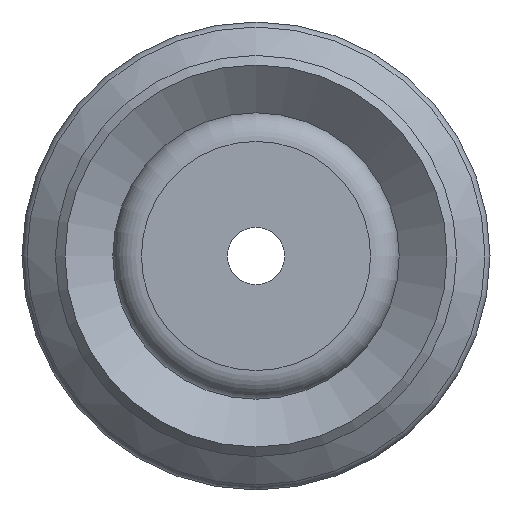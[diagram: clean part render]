
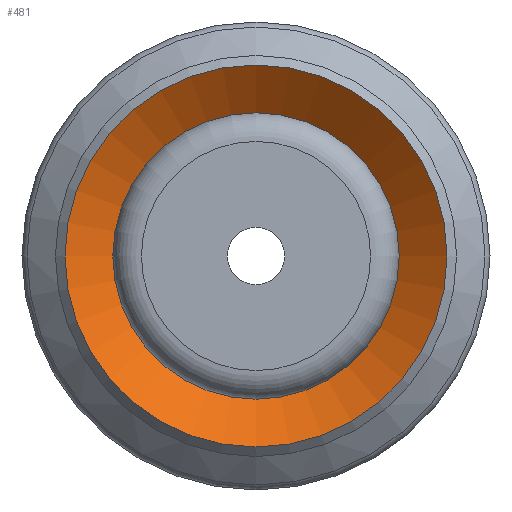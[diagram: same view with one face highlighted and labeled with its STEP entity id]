
A CAD part, front view. The second image highlights one B-rep face of the part: STEP entity #481.
In plain terms, the highlighted conical face has half-angle 52 degrees and reference radius 3 mm.
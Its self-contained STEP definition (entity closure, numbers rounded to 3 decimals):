
#481=ADVANCED_FACE('',(#693,#694),#695,.F.);
#693=FACE_BOUND('',#918,.T.);
#694=FACE_OUTER_BOUND('',#919,.T.);
#695=CONICAL_SURFACE('',#920,3.0,0.908);
#918=EDGE_LOOP('',(#1487));
#919=EDGE_LOOP('',(#1488));
#920=AXIS2_PLACEMENT_3D('',#1489,#1490,#1491);
#1487=ORIENTED_EDGE('',*,*,#1672,.F.);
#1488=ORIENTED_EDGE('',*,*,#1665,.T.);
#1489=CARTESIAN_POINT('',(0.0,7.741,0.));
#1490=DIRECTION('',(-0.0,-1.0,0.));
#1491=DIRECTION('',(0.0,0.,-1.0));
#1665=EDGE_CURVE('',#1914,#1914,#1915,.T.);
#1672=EDGE_CURVE('',#1928,#1928,#1929,.T.);
#1914=VERTEX_POINT('',#2476);
#1915=CIRCLE('',#2477,4.0);
#1928=VERTEX_POINT('',#2490);
#1929=CIRCLE('',#2491,3.0);
#2476=CARTESIAN_POINT('',(0.0,6.96,-4.0));
#2477=AXIS2_PLACEMENT_3D('',#2710,#2711,#2712);
#2490=CARTESIAN_POINT('',(0.0,7.741,-3.0));
#2491=AXIS2_PLACEMENT_3D('',#2731,#2732,#2733);
#2710=CARTESIAN_POINT('',(0.0,6.96,0.0));
#2711=DIRECTION('',(0.0,-1.0,0.));
#2712=DIRECTION('',(0.0,0.,-1.0));
#2731=CARTESIAN_POINT('',(0.0,7.741,0.));
#2732=DIRECTION('',(0.0,-1.0,0.));
#2733=DIRECTION('',(0.0,0.,-1.0));
